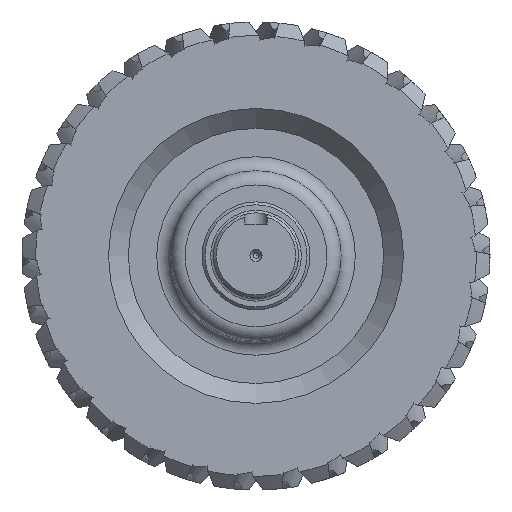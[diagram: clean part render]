
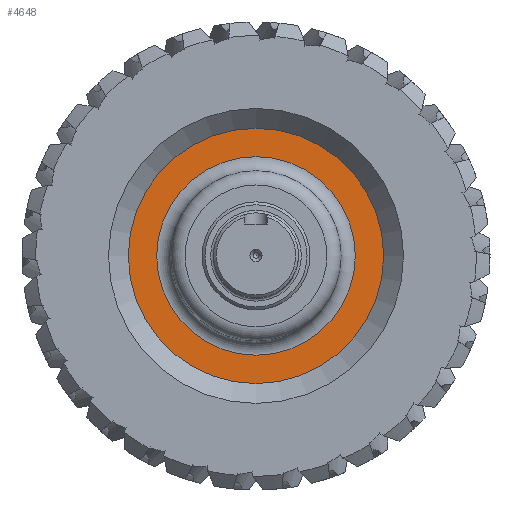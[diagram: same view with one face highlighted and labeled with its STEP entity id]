
A CAD part, top view. The second image highlights one B-rep face of the part: STEP entity #4648.
In plain terms, the highlighted planar face has unit normal (0, 0, 1).
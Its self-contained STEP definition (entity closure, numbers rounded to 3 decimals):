
#542=FACE_BOUND('',#1008,.T.);
#555=PLANE('',#4994);
#722=FACE_OUTER_BOUND('',#1007,.T.);
#1007=EDGE_LOOP('',(#3067));
#1008=EDGE_LOOP('',(#3068));
#1350=CIRCLE('',#4993,35.);
#1351=CIRCLE('',#4995,45.);
#1641=VERTEX_POINT('',#6995);
#1642=VERTEX_POINT('',#6999);
#2197=EDGE_CURVE('',#1641,#1641,#1350,.T.);
#2198=EDGE_CURVE('',#1642,#1642,#1351,.T.);
#3067=ORIENTED_EDGE('',*,*,#2198,.T.);
#3068=ORIENTED_EDGE('',*,*,#2197,.F.);
#4648=ADVANCED_FACE('',(#722,#542),#555,.F.);
#4993=AXIS2_PLACEMENT_3D('',#6997,#5723,#5724);
#4994=AXIS2_PLACEMENT_3D('',#6998,#5725,#5726);
#4995=AXIS2_PLACEMENT_3D('',#7000,#5727,#5728);
#5723=DIRECTION('center_axis',(0.,0.,1.));
#5724=DIRECTION('ref_axis',(0.,1.,0.));
#5725=DIRECTION('center_axis',(0.,0.,-1.));
#5726=DIRECTION('ref_axis',(-1.,0.,0.));
#5727=DIRECTION('center_axis',(0.,0.,1.));
#5728=DIRECTION('ref_axis',(0.,1.,0.));
#6995=CARTESIAN_POINT('',(35.,0.,13.));
#6997=CARTESIAN_POINT('Origin',(0.,0.,13.));
#6998=CARTESIAN_POINT('Origin',(0.,22.5,13.));
#6999=CARTESIAN_POINT('',(0.,-45.,13.));
#7000=CARTESIAN_POINT('Origin',(0.,0.,13.));
